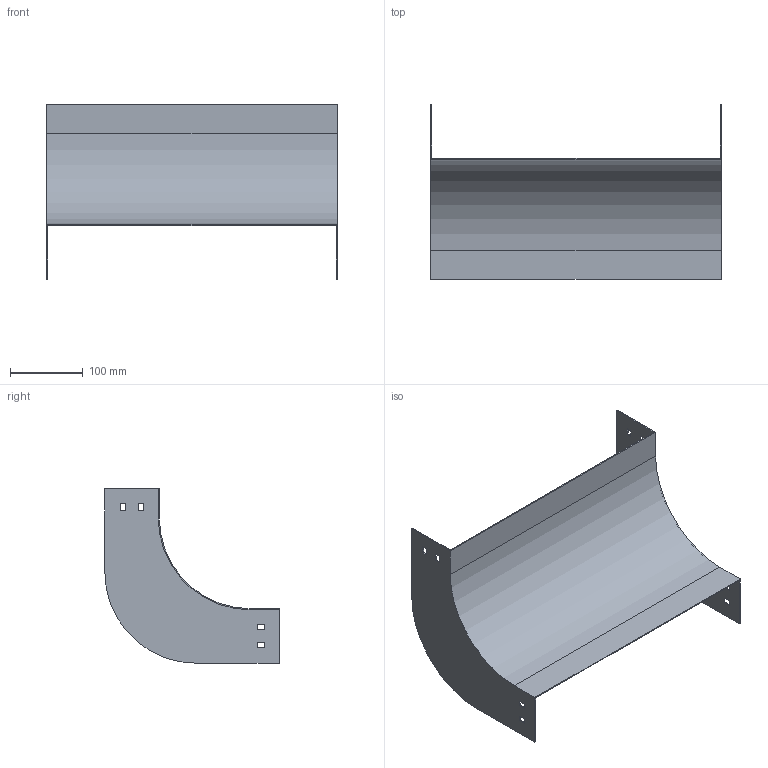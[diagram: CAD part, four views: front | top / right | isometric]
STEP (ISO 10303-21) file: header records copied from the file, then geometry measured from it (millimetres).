
FILE_DESCRIPTION (( 'STEP AP214' ), '1' );
FILE_NAME ('D9_407.step', '2025-07-16T09:09:05', ( '' ), ( '' ), 'SwSTEP 2.0', 'SolidWorks 2023', '' );
FILE_SCHEMA (( 'AUTOMOTIVE_DESIGN' ));
Length unit declared in the file: millimetre
Products named in the file (1): D9_407
Bounding box: 400 x 240 x 240 mm (x, y, z)
Volume: 255552.7 mm3; surface area: 344061.5 mm2
Topology: 1 solids, 1 shells, 50 faces, 144 edges, 96 vertices
Faces by surface type: plane 46, cylinder 4
Entity records: 1671 total; most frequent: CARTESIAN_POINT 291, ORIENTED_EDGE 288, DIRECTION 254, EDGE_CURVE 144, VECTOR 136, LINE 136, VERTEX_POINT 96, EDGE_LOOP 66
